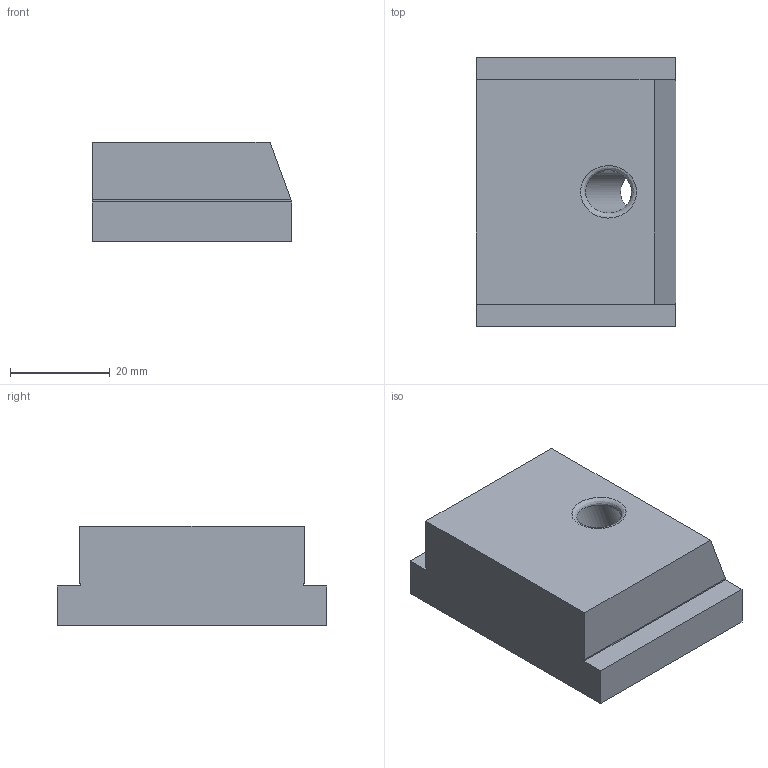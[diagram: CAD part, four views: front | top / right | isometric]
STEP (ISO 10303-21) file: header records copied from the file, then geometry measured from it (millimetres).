
FILE_DESCRIPTION (( 'STEP AP214' ), '1' );
FILE_NAME ('Schieber_-_H20 B45 L40.step', '2024-01-15T11:27:32', ( '' ), ( '' ), 'SwSTEP 2.0', 'SolidWorks 2020', '' );
FILE_SCHEMA (( 'AUTOMOTIVE_DESIGN' ));
Length unit declared in the file: millimetre
Products named in the file (1): Schieber_-_H20 B45 L40
Bounding box: 40 x 54 x 20 mm (x, y, z)
Volume: 36471.3 mm3; surface area: 8133.2 mm2
Topology: 1 solids, 1 shells, 207 faces, 549 edges, 365 vertices
Faces by surface type: plane 128, bspline 78, cylinder 1
Full cylindrical faces by diameter (mm): 8.5 x1
Entity records: 10543 total; most frequent: CARTESIAN_POINT 5908, ORIENTED_EDGE 1094, DIRECTION 650, EDGE_CURVE 547, LINE 390, VECTOR 390, VERTEX_POINT 365, EDGE_LOOP 232
